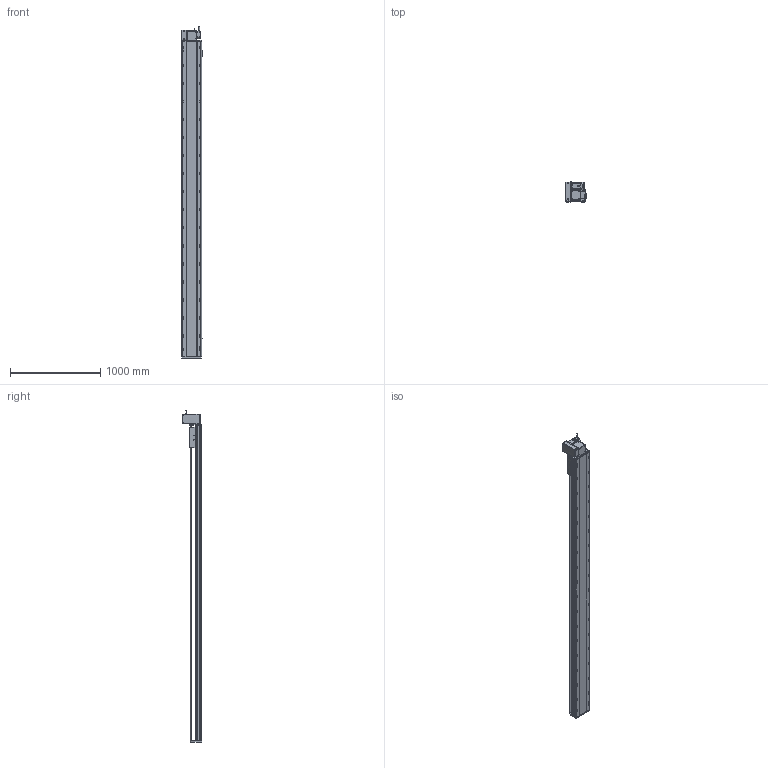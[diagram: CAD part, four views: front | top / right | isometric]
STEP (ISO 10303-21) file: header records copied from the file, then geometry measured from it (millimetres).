
FILE_DESCRIPTION (( 'STEP AP214' ), '1' );
FILE_NAME ('RTB22S-XX-3150-LW-M75-C4.STEP', '2025-12-12T07:06:34', ( '' ), ( '' ), 'SwSTEP 2.0', 'SolidWorks 2018', '' );
FILE_SCHEMA (( 'AUTOMOTIVE_DESIGN' ));
Length unit declared in the file: millimetre
Products named in the file (14): RTB22S-GY-001耜裔^RTB22S-XX-XX-LW-M75-C4; RTH22-GY-013外置感应片^RTB22S-XX-XX-LW-M75-C4; RTB22S-LW-々湍釱蚾饜^RTB22S-XX-XX-LW-M75-C4; RTB22S-GY-014--々湍釱^RTB22S-LW-々湍釱蚾饜_RTB22S-XX-XX-LW-M75-C4; RTB22S-GY-008-M75--萇儂啣^RTB22S-LW-々湍釱蚾饜_RTB22S-XX-XX-LW-M75-C4; RTB22S-GY-005P^RTB22S-LW-々湍釱蚾饜_RTB22S-XX-XX-LW-M75-C4; RTB22S-GY-017P^RTB22S-LW-々湍釱蚾饜_RTB22S-XX-XX-LW-M75-C4; RTB22S-L-004賑釱^RTB22S-XX-XX-LW-M75-C4; RTB22S-GY-007奻裔^RTB22S-XX-XX-LW-M75-C4; RTB22S-GY-018P^RTB22S-LW-々湍釱蚾饜_RTB22S-XX-XX-LW-M75-C4; 750W萇儂^RTB22S-XX-XX-LW-M75-C4; RTB22S-L-011菁釱^RTB22S-XX-XX-LW-M75-C4; RTB22S-XX-3150-LW-M75-C4; OMRON EE-SX672 传感器^RTB22S-XX-XX-LW-M75-C4
Assembly tree (16 placements, depth 3):
  RTB22S-XX-3150-LW-M75-C4
    RTB22S-L-011菁釱^RTB22S-XX-XX-LW-M75-C4
    RTB22S-GY-001耜裔^RTB22S-XX-XX-LW-M75-C4
    750W萇儂^RTB22S-XX-XX-LW-M75-C4
    RTB22S-GY-007奻裔^RTB22S-XX-XX-LW-M75-C4
    RTB22S-L-004賑釱^RTB22S-XX-XX-LW-M75-C4
    RTH22-GY-013外置感应片^RTB22S-XX-XX-LW-M75-C4
    OMRON EE-SX672 传感器^RTB22S-XX-XX-LW-M75-C4  x3
    RTB22S-LW-々湍釱蚾饜^RTB22S-XX-XX-LW-M75-C4
      RTB22S-GY-014--々湍釱^RTB22S-LW-々湍釱蚾饜_RTB22S-XX-XX-LW-M75-C4
      RTB22S-GY-017P^RTB22S-LW-々湍釱蚾饜_RTB22S-XX-XX-LW-M75-C4  x2
      RTB22S-GY-005P^RTB22S-LW-々湍釱蚾饜_RTB22S-XX-XX-LW-M75-C4
      RTB22S-GY-008-M75--萇儂啣^RTB22S-LW-々湍釱蚾饜_RTB22S-XX-XX-LW-M75-C4
      RTB22S-GY-018P^RTB22S-LW-々湍釱蚾饜_RTB22S-XX-XX-LW-M75-C4
Bounding box: 238.5 x 215.5 x 3682.2 mm (x, y, z)
Volume: 46337643 mm3; surface area: 4720768.4 mm2
Topology: 15 solids, 15 shells, 2163 faces, 5886 edges, 3752 vertices
Faces by surface type: plane 935, cylinder 742, bspline 296, cone 178, sphere 8, torus 4
Entity records: 59348 total; most frequent: CARTESIAN_POINT 16652, ORIENTED_EDGE 8480, DIRECTION 8334, EDGE_CURVE 4240, AXIS2_PLACEMENT_3D 3006, VERTEX_POINT 2756, LINE 2322, VECTOR 2322
